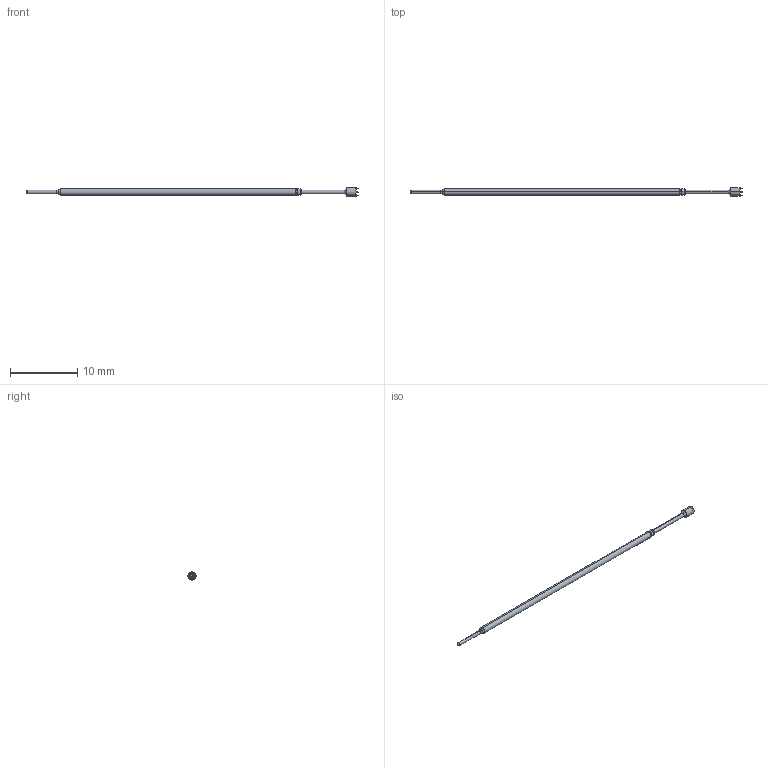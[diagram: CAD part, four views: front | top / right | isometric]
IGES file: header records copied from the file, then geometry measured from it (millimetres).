
Start section: SolidWorks IGES file using analytic representation for surfaces
Global section: file name: C:\Documents and Settings\mrumschlag\Desktop\changes\new\test\H.IGS; native system: SolidWorks 2011; preprocessor: SolidWorks 2011; author: mrumschlag; date: 110630.142314; units: inch
Bounding box: 49.28 x 1.19 x 1.19 mm (x, y, z)
Surface area: 138 mm2 (no closed solid volume)
Topology: 0 solids, 0 shells, 55 faces, 254 edges, 252 vertices
Faces by surface type: bspline 37, revolution 18
